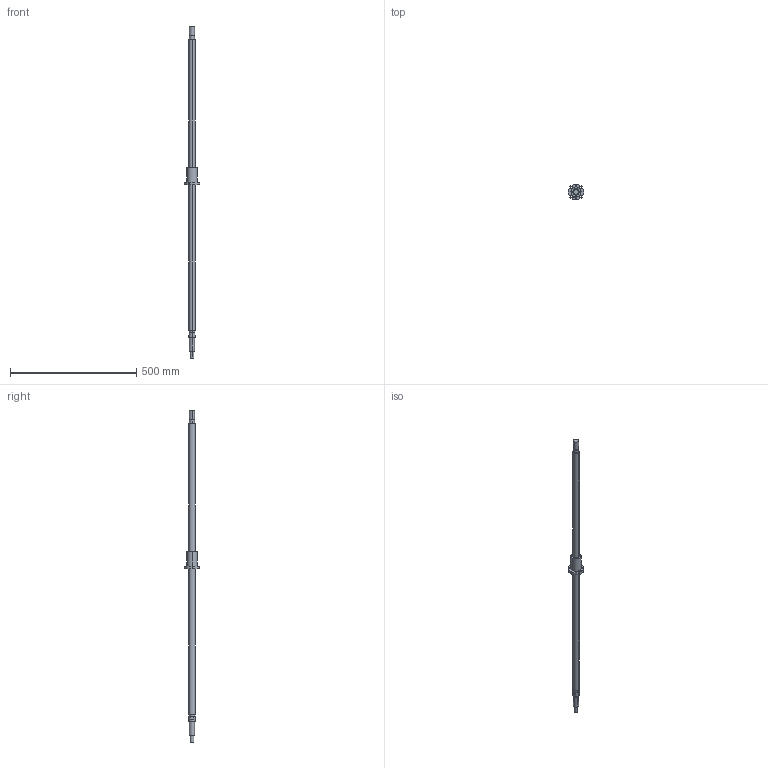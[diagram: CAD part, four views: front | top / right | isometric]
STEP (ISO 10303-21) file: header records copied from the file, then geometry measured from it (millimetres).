
FILE_DESCRIPTION((''),'2;1');
FILE_NAME('25-25K2','2008-04-11T',('cmliu'),(''),'PRO/ENGINEER BY PARAMETRIC TECHNOLOGY CORPORATION, 2004110','PRO/ENGINEER BY PARAMETRIC TECHNOLOGY CORPORATION, 2004110','');
FILE_SCHEMA(('CONFIG_CONTROL_DESIGN'));
Length unit declared in the file: millimetre
Products named in the file (1): 25-25K2
Bounding box: 62 x 62 x 1313 mm (x, y, z)
Volume: 683628 mm3; surface area: 111916.7 mm2
Topology: 1 solids, 1 shells, 56 faces, 126 edges, 84 vertices
Faces by surface type: cylinder 39, plane 17
Entity records: 1715 total; most frequent: CARTESIAN_POINT 321, DIRECTION 310, ORIENTED_EDGE 252, AXIS2_PLACEMENT_3D 132, EDGE_CURVE 126, VERTEX_POINT 84, EDGE_LOOP 80, CIRCLE 76
